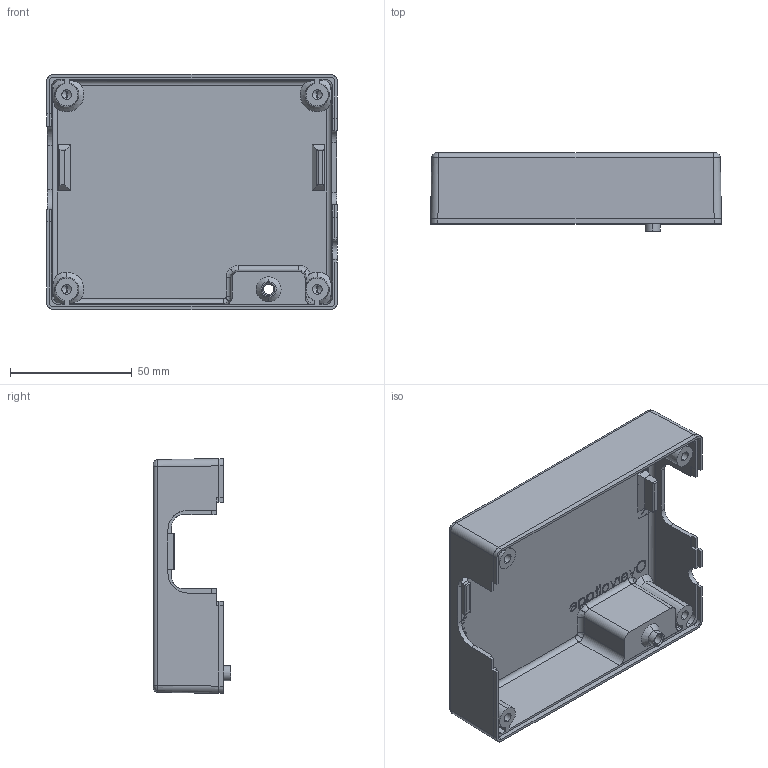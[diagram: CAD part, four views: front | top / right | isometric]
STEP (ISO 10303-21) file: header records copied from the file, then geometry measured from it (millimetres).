
FILE_DESCRIPTION (( 'STEP AP214' ), '1' );
FILE_NAME ('UpperEnclosure_ProtMod_V4.STEP', '2024-10-01T18:52:28', ( '' ), ( '' ), 'SwSTEP 2.0', 'SolidWorks 2024', '' );
FILE_SCHEMA (( 'AUTOMOTIVE_DESIGN' ));
Length unit declared in the file: millimetre
Products named in the file (1): UpperEnclosure_ProtMod_V4
Bounding box: 119.64 x 32 x 96.64 mm (x, y, z)
Volume: 51729.9 mm3; surface area: 49746.7 mm2
Topology: 4 solids, 4 shells, 1138 faces, 3226 edges, 2123 vertices
Faces by surface type: plane 682, bspline 370, cylinder 58, cone 24, torus 4
Entity records: 55098 total; most frequent: CARTESIAN_POINT 28363, ORIENTED_EDGE 6436, DIRECTION 3923, EDGE_CURVE 3218, VECTOR 2209, LINE 2209, VERTEX_POINT 2123, EDGE_LOOP 1239
